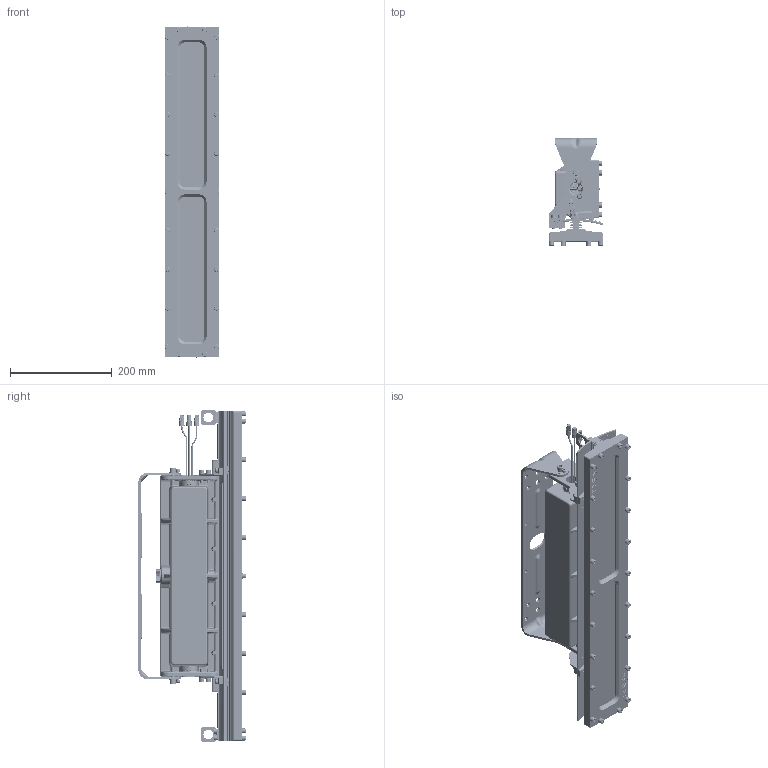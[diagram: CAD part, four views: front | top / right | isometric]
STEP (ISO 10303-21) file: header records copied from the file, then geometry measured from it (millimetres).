
FILE_DESCRIPTION((''),'2;1');
FILE_NAME('8800HZL0152EX_ASM','2017-07-14T',('albanod'),(''),'PRO/ENGINEER BY PARAMETRIC TECHNOLOGY CORPORATION, 2014000','PRO/ENGINEER BY PARAMETRIC TECHNOLOGY CORPORATION, 2014000','');
FILE_SCHEMA(('CONFIG_CONTROL_DESIGN'));
Length unit declared in the file: inch
Products named in the file (142): 3950HZL0011EX; 3598HZL0004EX; 8400HZL0002EX; 3600HZL000200; 9100117139399_4ASM; 9100117138399_4ASM; 125_POP-RIVET_156-GRIP; 5000HZL000101; 3600HZL000101; LOCKWASHER_SPLIT_M6_HC; SCREW_SHCS_M6-1POINT0_16MM; 9300HIB002600_BULK; 90000001909EX; 3950HZL0024EX; 6200860000103; 9100117085999; 3050HZL0012EX; SCREW_SHCS_M6-1POINT0_25MM; 9100117139599; SCREW_4-40X187_PHPS_SS; 1500HZL000400; 4200000183100; 4200000192300; 3200000192400_POINT8_SP; 3200000168300; 3200000153200; 3200000188000; 7200000145700; 7200000166500; 7200000176300; 2200000183700; 8900000153600; RESISTOR_10K_OHM_1206; RESISTOR_1K_OHM_1206; RESISTOR_10_OHM_1206; RESISTOR_100K_OHM_1206; RESISTOR_150K_OHM_1206; RES_22_OHM_0805; RES_120_OHM_0805; RES_1K_OHM_0805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
Assembly tree (286 placements, depth 4):
  8800HZL0152EX_ASM
    3950HZL0011EX
    3598HZL0004EX
    8400HZL0002EX
    3600HZL000200
    9100117139399_4ASM
    9100117138399_4ASM
    125_POP-RIVET_156-GRIP  x4
    5000HZL000101
    3600HZL000101  x2
    LOCKWASHER_SPLIT_M6_HC  x32
    SCREW_SHCS_M6-1POINT0_16MM  x22
    9300HIB002600_BULK
    90000001909EX
    3950HZL0024EX
    6200860000103  x2
    9100117085999
    3050HZL0012EX
    SCREW_SHCS_M6-1POINT0_25MM  x10
    9100117139599
    SCREW_4-40X187_PHPS_SS  x2
    8850HZL0015EX_ASM
      8800HZL0004EX_ASM
        1500HZL000400
        4200000183100
        4200000192300
        3200000192400_POINT8_SP
        3200000168300
        3200000153200
        3200000188000  x5
        7200000145700
        7200000166500
        7200000176300
        2200000183700
        8900000153600  x2
        RESISTOR_10K_OHM_1206
        RESISTOR_1K_OHM_1206
        RESISTOR_10_OHM_1206
        RESISTOR_100K_OHM_1206  x2
        RESISTOR_150K_OHM_1206
        RES_22_OHM_0805
        RES_120_OHM_0805
        RES_1K_OHM_0805  x3
        RES_2POINT2K_OHM_0805
        RES_3POINT3K_OHM_0805
        RES_4POINT7K_OHM_0805
        RES_6POINT2K_OHM_0805
        RES_6POINT8K_OHM_0805  x2
        RES_10K_OHM_0805  x2
        RES_15K_OHM_0805  x2
        RES_20K_OHM_0805
        RES_22K_OHM_0805  x2
        RES_27K_OHM_0805
        RES_33K_OHM_0805
        RES_47K_OHM_0805
        RES_100K_OHM_0805  x2
        RES_120K_OHM_0805
        RES_750K_OHM_0805
        POINT39_OHM_1W
        100K_OHM_1W
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Bounding box: 107.95 x 211.22 x 653.34 mm (x, y, z)
Volume: 3379186 mm3; surface area: 1437271.7 mm2
Topology: 360 solids, 360 shells, 13322 faces, 32819 edges, 20538 vertices
Faces by surface type: plane 5975, cylinder 4461, torus 951, bspline 856, cone 855, sphere 224
Entity records: 258037 total; most frequent: CARTESIAN_POINT 75447, DIRECTION 39109, ORIENTED_EDGE 36588, EDGE_CURVE 18294, AXIS2_PLACEMENT_3D 14632, VERTEX_POINT 11293, VECTOR 9845, LINE 9845
